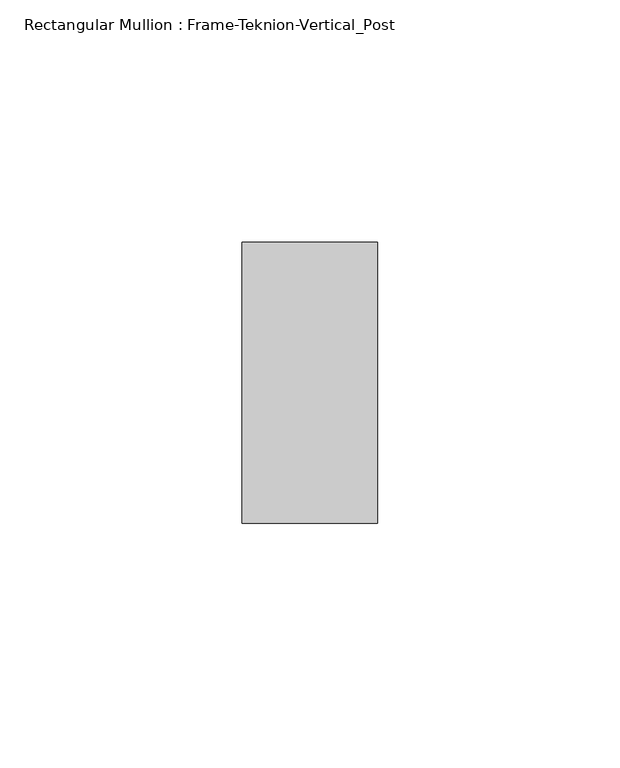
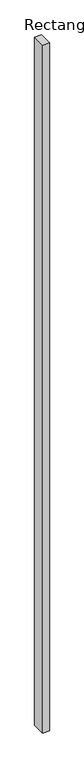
"""IFC4 building model written with IfcOpenShell, lengths in millimetres: member geometry, Rectangular Mullion : Frame-Teknion-Vertical_Post."""

from ifc_helpers import new_model, si_unit, frame, origin, place, context, project, spatial, polyline, outline, extrude, source, transform, mapped, element, save


def rectangular_mullion_frame_teknion_vertical_post_1fa3a907(model_context):
    return source(origin(), model_context, "Body", "SweptSolid", [
        extrude(outline(polyline([(0.0, 28.971875), (0.0, -28.971875), (-27.9796875, -28.971875), (-27.9796875, 28.971875), (0.0, 28.971875)])), frame((0.0, 0.0, -3048.0), z_axis=(0.0, 0.0, 1.0), x_axis=(1.0, 0.0, 0.0)), (0.0, 0.0, 1.0), 3048.0),
    ])


if __name__ == "__main__":
    model = new_model("IFC4")
    model_context = context("Model", 3, world=origin())
    ifc_project = project(units=[si_unit("LENGTHUNIT", "METRE", prefix="MILLI")], contexts=[model_context])
    site = spatial("IfcSite", under=ifc_project)
    building = spatial("IfcBuilding", under=site)
    placement = place(None, origin())
    rectangular_mullion_frame_teknion_vertical_post_shape = rectangular_mullion_frame_teknion_vertical_post_1fa3a907(model_context)
    element("IfcMember", 1, ObjectType="Rectangular Mullion : Frame-Teknion-Vertical_Post", at=placement, inside=building, context=model_context, shape_type="MappedRepresentation", body=[
        mapped(rectangular_mullion_frame_teknion_vertical_post_shape, transform((0.0, 0.0, 0.0), x_axis=(1.0, 0.0, 0.0), y_axis=(0.0, 1.0, 0.0), z_axis=(0.0, 0.0, 1.0))),
    ])
    save(model, "model.ifc")
